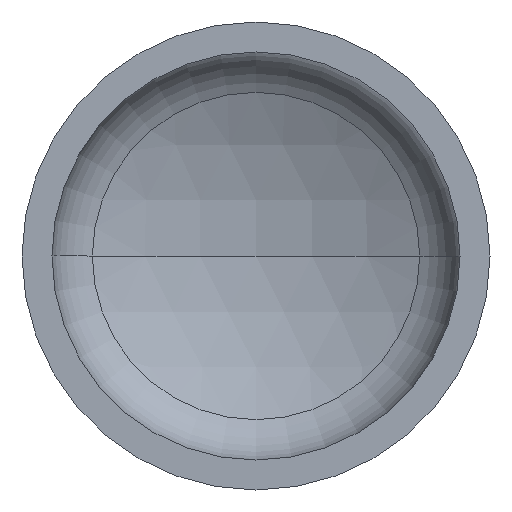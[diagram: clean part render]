
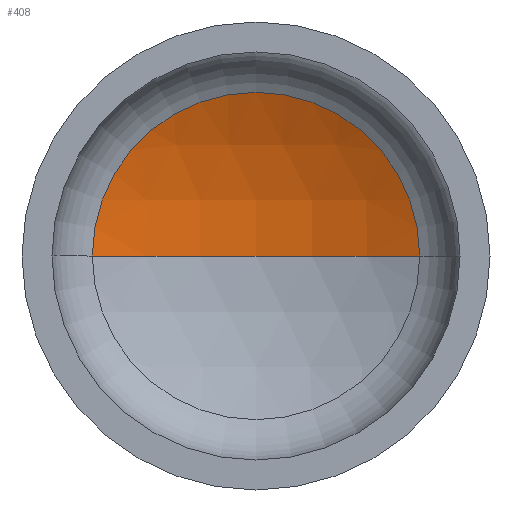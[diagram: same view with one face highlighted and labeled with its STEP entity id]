
A CAD part, front view. The second image highlights one B-rep face of the part: STEP entity #408.
In plain terms, the highlighted spherical face has radius 1200 mm.
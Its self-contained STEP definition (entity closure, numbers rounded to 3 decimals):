
#2 = DIRECTION ( 'NONE',  ( -1., 0., 0. ) ) ;
#7 = AXIS2_PLACEMENT_3D ( 'NONE', #327, #162, #281 ) ;
#8 = AXIS2_PLACEMENT_3D ( 'NONE', #350, #199, #374 ) ;
#23 = VERTEX_POINT ( 'NONE', #405 ) ;
#32 = AXIS2_PLACEMENT_3D ( 'NONE', #154, #152, #44 ) ;
#40 = EDGE_LOOP ( 'NONE', ( #258, #218, #360 ) ) ;
#44 = DIRECTION ( 'NONE',  ( 1., 0., 0. ) ) ;
#89 = VERTEX_POINT ( 'NONE', #407 ) ;
#152 = DIRECTION ( 'NONE',  ( 0., -1., 0. ) ) ;
#154 = CARTESIAN_POINT ( 'NONE',  ( 0., 306.863, 0. ) ) ;
#162 = DIRECTION ( 'NONE',  ( 0., 0., 1. ) ) ;
#172 = EDGE_CURVE ( 'NONE', #23, #89, #180, .T. ) ;
#175 = VERTEX_POINT ( 'NONE', #248 ) ;
#180 = CIRCLE ( 'NONE', #32, 524.536 ) ;
#199 = DIRECTION ( 'NONE',  ( 0., 0., -1. ) ) ;
#218 = ORIENTED_EDGE ( 'NONE', *, *, #365, .T. ) ;
#248 = CARTESIAN_POINT ( 'NONE',  ( 0., 427.576, 0. ) ) ;
#258 = ORIENTED_EDGE ( 'NONE', *, *, #378, .F. ) ;
#265 = DIRECTION ( 'NONE',  ( 0., 0., -1. ) ) ;
#269 = CARTESIAN_POINT ( 'NONE',  ( 0., -772.424, 0. ) ) ;
#281 = DIRECTION ( 'NONE',  ( 1., 0., 0. ) ) ;
#290 = CIRCLE ( 'NONE', #7, 1200. ) ;
#294 = CIRCLE ( 'NONE', #8, 1200. ) ;
#327 = CARTESIAN_POINT ( 'NONE',  ( 0., -772.424, 0. ) ) ;
#338 = SPHERICAL_SURFACE ( 'NONE', #344, 1200. ) ;
#344 = AXIS2_PLACEMENT_3D ( 'NONE', #269, #265, #2 ) ;
#350 = CARTESIAN_POINT ( 'NONE',  ( 0., -772.424, 0. ) ) ;
#360 = ORIENTED_EDGE ( 'NONE', *, *, #172, .T. ) ;
#365 = EDGE_CURVE ( 'NONE', #175, #23, #294, .T. ) ;
#374 = DIRECTION ( 'NONE',  ( -1., 0., 0. ) ) ;
#378 = EDGE_CURVE ( 'NONE', #175, #89, #290, .T. ) ;
#393 = FACE_OUTER_BOUND ( 'NONE', #40, .T. ) ;
#405 = CARTESIAN_POINT ( 'NONE',  ( 524.536, 306.863, 0. ) ) ;
#407 = CARTESIAN_POINT ( 'NONE',  ( -524.536, 306.863, 0. ) ) ;
#408 = ADVANCED_FACE ( 'NONE', ( #393 ), #338, .F. ) ;
